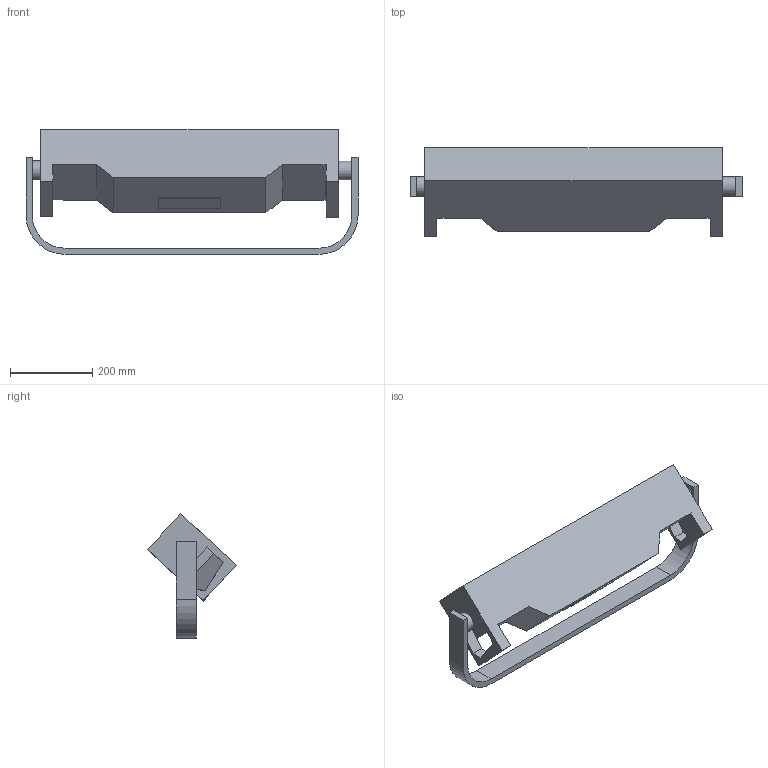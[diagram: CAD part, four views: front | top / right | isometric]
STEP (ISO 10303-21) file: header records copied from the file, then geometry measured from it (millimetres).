
FILE_DESCRIPTION(/* description */ (''),/* implementation_level */ '2;1');
FILE_NAME(/* name */ 'onAir Panel 3 IP_45_3D.stp',/* time_stamp */ '2024-04-10T10:53:26-04:00',/* author */ ('dgooch'),/* organization */ (''),/* preprocessor_version */ 'ST-DEVELOPER v20',/* originating_system */ 'Autodesk Inventor 2024',/* authorisation */ '');
FILE_SCHEMA (('AUTOMOTIVE_DESIGN { 1 0 10303 214 3 1 1 }'));
Length unit declared in the file: millimetre
Products named in the file (3): onAir Panel 3 IP_0; Arm; Body
Assembly tree (2 placements, depth 2):
  onAir Panel 3 IP_0
    Arm
    Body
Bounding box: 808.4 x 215.65 x 303.52 mm (x, y, z)
Volume: 13888359.5 mm3; surface area: 622784.8 mm2
Topology: 2 solids, 2 shells, 53 faces, 138 edges, 92 vertices
Faces by surface type: plane 45, cylinder 6, bspline 2
Full cylindrical faces by diameter (mm): 45.369 x2
Entity records: 3483 total; most frequent: CARTESIAN_POINT 2050, ORIENTED_EDGE 276, DIRECTION 258, EDGE_CURVE 138, LINE 122, VECTOR 122, VERTEX_POINT 92, AXIS2_PLACEMENT_3D 68
